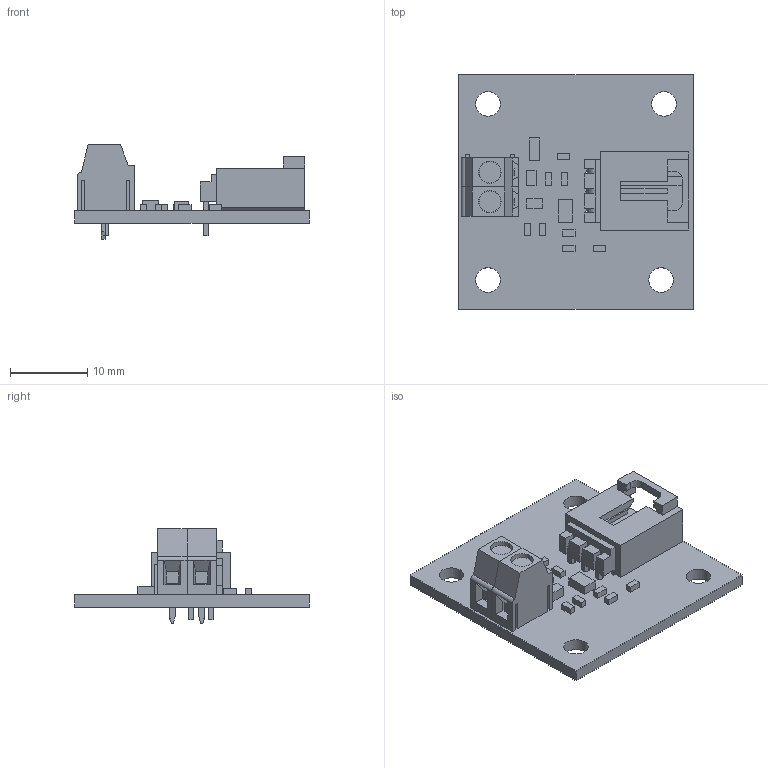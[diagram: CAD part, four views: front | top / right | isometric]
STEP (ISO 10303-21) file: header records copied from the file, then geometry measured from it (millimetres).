
FILE_DESCRIPTION(('Open CASCADE Model'),'2;1');
FILE_NAME('Open CASCADE Shape Model','2010-10-28T09:36:07',('Author'),( 'Open CASCADE'),'Open CASCADE STEP processor 6.2','Open CASCADE 6.2' ,'Unknown');
FILE_SCHEMA(('AUTOMOTIVE_DESIGN { 1 0 10303 214 1 1 1 1 }'));
Length unit declared in the file: millimetre
Products named in the file (36): PCB; Board; J1; 20020327-d02_asm; 20020327-D-LEM; 20020327-D-REM; 828468224; Cylinder; C4; 478789824; Extruded; C1; 478788672; C2; J2; 705530002; Open CASCADE STEP translator 6.2 143.6.1.1; Open CASCADE STEP translator 6.2 143.6.1.2; R2; R3; R6; U2; 845307424; R1; 478793792; R4; 478792128; R5; C3; U1; 478794176
Assembly tree (42 placements, depth 4):
  PCB
    Board
    J1
      20020327-d02_asm
        20020327-D-LEM
        20020327-D-REM  x2
      828468224
        Cylinder
    C4
      478789824
        Extruded
    C1
      478788672
        Extruded
    C2
      478789824
        Extruded
    J2
      705530002
        Open CASCADE STEP translator 6.2 143.6.1.1
        Open CASCADE STEP translator 6.2 143.6.1.2
    R2
      478788672
        Extruded
    R3
      478789824
        Extruded
    R6
      478789824
        Extruded
    U2
      845307424
        Extruded
    R1
      478793792
        Extruded
    R4
      478792128
        Extruded
    R5
      478788672
        Extruded
    C3
      478788672
        Extruded
    U1
      478794176
        Extruded
Bounding box: 30.48 x 30.48 x 12.31 mm (x, y, z)
Volume: 2221 mm3; surface area: 3679.1 mm2
Topology: 21 solids, 21 shells, 439 faces, 1114 edges, 730 vertices
Faces by surface type: plane 383, cylinder 52, cone 4
Full cylindrical faces by diameter (mm): 0.6 x1, 0.965 x3, 1.321 x2, 3.175 x4
Entity records: 19213 total; most frequent: CARTESIAN_POINT 3579, DIRECTION 2808, LINE 1949, VECTOR 1949, ORIENTED_EDGE 1476, PCURVE 1476, DEFINITIONAL_REPRESENTATION 1476, EDGE_CURVE 738
